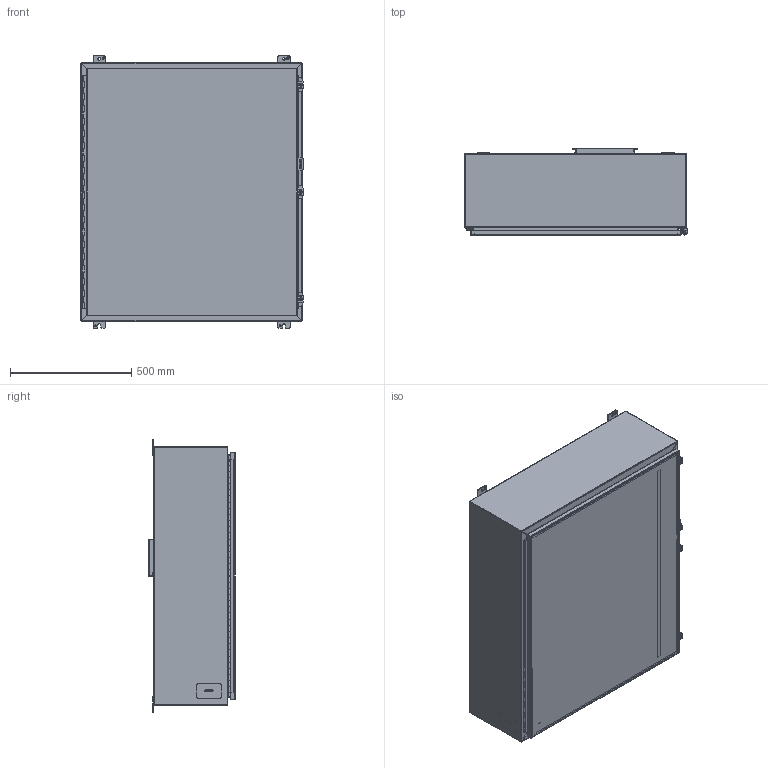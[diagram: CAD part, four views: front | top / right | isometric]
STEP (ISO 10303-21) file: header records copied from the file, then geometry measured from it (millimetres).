
FILE_DESCRIPTION(/* description */ ('Unknown'),/* implementation_level */ '2;1');
FILE_NAME(/* name */ '1418P12LP',/* time_stamp */ '2026-02-20T16:36:04-05:00',/* author */ ('Unknown'),/* organization */ ('Unknown'),/* preprocessor_version */ 'ST-DEVELOPER v18.104',/* originating_system */ 'Solid Edge',/* authorisation */ 'Unknown');
FILE_SCHEMA (('AUTOMOTIVE_DESIGN {1 0 10303 214 3 1 1}'));
Length unit declared in the file: millimetre
Products named in the file (33): 1418P12LP; STD26094; STD21878; COM42780; COM40153-1; COM71782-3; COM40153-2; COM53845-2; HNG10620-38C; COM70219_oa_0; PNT11078; COM48462; FET07710; AKT90223; SPR20265; SCC19011; WAF25035; COM42667; KIT90256; LAB30005; NTS165305; NTS16535; BUL10020; QLB30109; PKT99; COM70236-3; HNG10620-38B; KIT90521; WAF25059; NTS166105; HNG10620-38P; QLB20254
Assembly tree (49 placements, depth 3):
  1418P12LP
    STD26094  x8
    STD21878
    COM42780  x3
    COM40153-1
    COM71782-3
      COM40153-2
      COM53845-2
      COM71782-3
      STD21878
      HNG10620-38C
      COM70219_oa_0
      PNT11078
    COM48462
    FET07710  x4
    AKT90223  x3
      SPR20265
      SCC19011
      WAF25035
      COM42667
    KIT90256
      LAB30005
      NTS165305
      NTS16535
    BUL10020
    QLB30109
    PKT99
    COM70236-3  x2
    HNG10620-38B
    KIT90521
      WAF25059
      NTS166105
    HNG10620-38P
    PNT11078
    QLB20254
Bounding box: 917.58 x 358.77 x 1123.95 mm (x, y, z)
Volume: 6736864 mm3; surface area: 7353600.2 mm2
Topology: 47 solids, 48 shells, 1572 faces, 4059 edges, 2644 vertices
Faces by surface type: plane 1026, cylinder 403, bspline 77, torus 34, cone 30, sphere 2
Full cylindrical faces by diameter (mm): 3.175 x1, 4.763 x1, 4.976 x1, 5.41 x3, 6.198 x3, 6.35 x3, 6.731 x3, 7.137 x2, 7.805 x1, 7.938 x4, 8.382 x8, 9.525 x8, 9.906 x3, 11.113 x4, 11.303 x1, 12.7 x3, 16.51 x8, 25.4 x1, 88.9 x1
Entity records: 36622 total; most frequent: CARTESIAN_POINT 10327, ORIENTED_EDGE 5370, DIRECTION 4922, EDGE_CURVE 2685, LINE 1766, VECTOR 1766, VERTEX_POINT 1765, AXIS2_PLACEMENT_3D 1578
